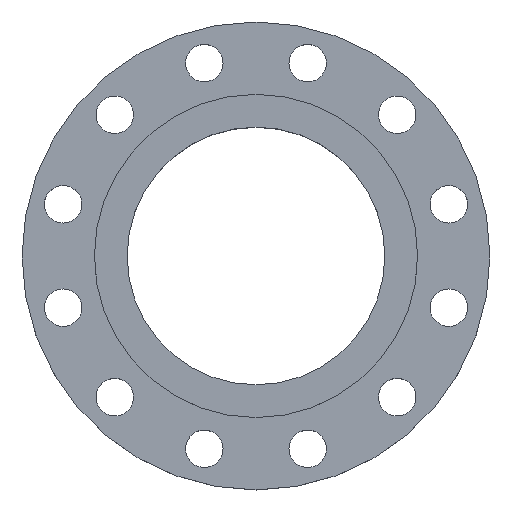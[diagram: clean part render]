
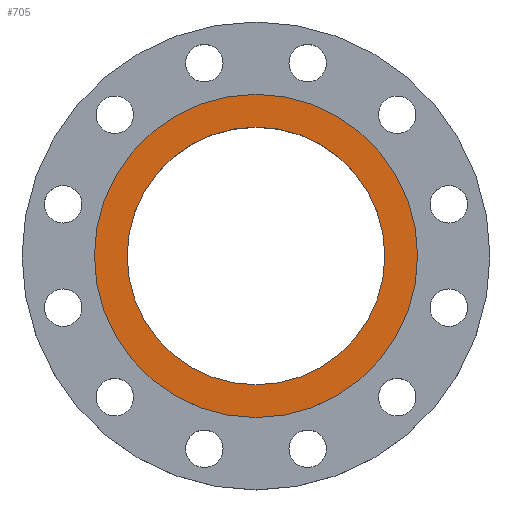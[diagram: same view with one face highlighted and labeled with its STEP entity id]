
A CAD part, top view. The second image highlights one B-rep face of the part: STEP entity #705.
In plain terms, the highlighted planar face has unit normal (0, 0, 1).
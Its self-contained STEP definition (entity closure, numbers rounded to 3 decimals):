
#26 = DIRECTION ( 'NONE',  ( 0., 0., -1. ) ) ;
#35 = CARTESIAN_POINT ( 'NONE',  ( -103.25, 0., 0. ) ) ;
#140 = VERTEX_POINT ( 'NONE', #35 ) ;
#160 = DIRECTION ( 'NONE',  ( 1., 0., 0. ) ) ;
#236 = DIRECTION ( 'NONE',  ( -1., 0., 0. ) ) ;
#279 = DIRECTION ( 'NONE',  ( 0., 0., -1. ) ) ;
#292 = CIRCLE ( 'NONE', #293, 103.25 ) ;
#293 = AXIS2_PLACEMENT_3D ( 'NONE', #1179, #279, #793 ) ;
#303 = PLANE ( 'NONE',  #506 ) ;
#322 = EDGE_LOOP ( 'NONE', ( #639, #641 ) ) ;
#394 = CARTESIAN_POINT ( 'NONE',  ( 129.5, 0., 0. ) ) ;
#416 = CARTESIAN_POINT ( 'NONE',  ( -129.5, 0., 0. ) ) ;
#439 = CIRCLE ( 'NONE', #1208, 103.25 ) ;
#506 = AXIS2_PLACEMENT_3D ( 'NONE', #805, #1135, #160 ) ;
#526 = CARTESIAN_POINT ( 'NONE',  ( 103.25, 0., 0. ) ) ;
#556 = VERTEX_POINT ( 'NONE', #526 ) ;
#584 = CIRCLE ( 'NONE', #693, 129.5 ) ;
#621 = CARTESIAN_POINT ( 'NONE',  ( 0., 0., 0. ) ) ;
#627 = DIRECTION ( 'NONE',  ( -1., 0., 0. ) ) ;
#636 = ORIENTED_EDGE ( 'NONE', *, *, #1134, .T. ) ;
#638 = ORIENTED_EDGE ( 'NONE', *, *, #1028, .T. ) ;
#639 = ORIENTED_EDGE ( 'NONE', *, *, #771, .F. ) ;
#641 = ORIENTED_EDGE ( 'NONE', *, *, #958, .F. ) ;
#693 = AXIS2_PLACEMENT_3D ( 'NONE', #1051, #26, #627 ) ;
#705 = ADVANCED_FACE ( 'NONE', ( #863, #1195 ), #303, .T. ) ;
#734 = CIRCLE ( 'NONE', #736, 129.5 ) ;
#736 = AXIS2_PLACEMENT_3D ( 'NONE', #831, #1163, #236 ) ;
#771 = EDGE_CURVE ( 'NONE', #1392, #1257, #584, .T. ) ;
#793 = DIRECTION ( 'NONE',  ( -1., 0., 0. ) ) ;
#805 = CARTESIAN_POINT ( 'NONE',  ( 0., 0., 0. ) ) ;
#831 = CARTESIAN_POINT ( 'NONE',  ( 0., 0., 0. ) ) ;
#863 = FACE_BOUND ( 'NONE', #1189, .T. ) ;
#956 = DIRECTION ( 'NONE',  ( 0., 0., -1. ) ) ;
#958 = EDGE_CURVE ( 'NONE', #1257, #1392, #734, .T. ) ;
#1028 = EDGE_CURVE ( 'NONE', #556, #140, #292, .T. ) ;
#1051 = CARTESIAN_POINT ( 'NONE',  ( 0., 0., 0. ) ) ;
#1134 = EDGE_CURVE ( 'NONE', #140, #556, #439, .T. ) ;
#1135 = DIRECTION ( 'NONE',  ( 0., 0., 1. ) ) ;
#1163 = DIRECTION ( 'NONE',  ( 0., 0., -1. ) ) ;
#1179 = CARTESIAN_POINT ( 'NONE',  ( 0., 0., 0. ) ) ;
#1189 = EDGE_LOOP ( 'NONE', ( #636, #638 ) ) ;
#1195 = FACE_OUTER_BOUND ( 'NONE', #322, .T. ) ;
#1208 = AXIS2_PLACEMENT_3D ( 'NONE', #621, #956, #1293 ) ;
#1257 = VERTEX_POINT ( 'NONE', #394 ) ;
#1293 = DIRECTION ( 'NONE',  ( -1., 0., 0. ) ) ;
#1392 = VERTEX_POINT ( 'NONE', #416 ) ;
